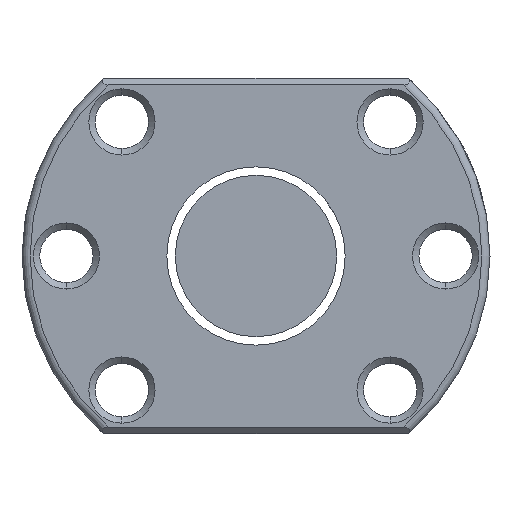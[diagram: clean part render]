
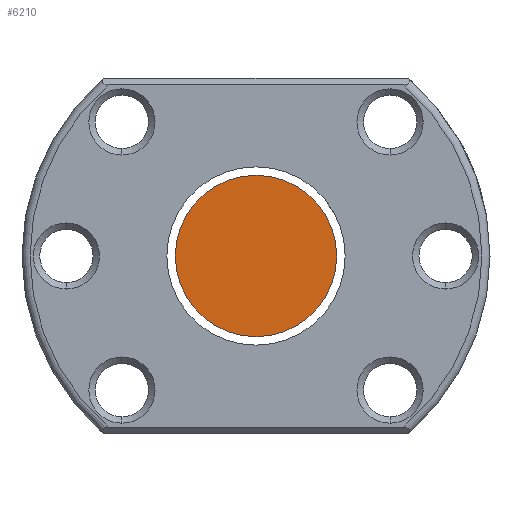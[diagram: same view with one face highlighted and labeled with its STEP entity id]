
A CAD part, left-side view. The second image highlights one B-rep face of the part: STEP entity #6210.
In plain terms, the highlighted planar face has unit normal (-1, 0, 0).
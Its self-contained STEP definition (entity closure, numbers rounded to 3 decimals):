
#136 = CARTESIAN_POINT ( 'NONE',  ( -270., 0., 0. ) ) ;
#426 = VERTEX_POINT ( 'NONE', #1868 ) ;
#1083 = ORIENTED_EDGE ( 'NONE', *, *, #2401, .F. ) ;
#1507 = ORIENTED_EDGE ( 'NONE', *, *, #4266, .F. ) ;
#1595 = VERTEX_POINT ( 'NONE', #6129 ) ;
#1868 = CARTESIAN_POINT ( 'NONE',  ( -270., 0., -10. ) ) ;
#1909 = DIRECTION ( 'NONE',  ( -1., 0., 0. ) ) ;
#2097 = DIRECTION ( 'NONE',  ( 0., 0., -1. ) ) ;
#2401 = EDGE_CURVE ( 'NONE', #1595, #426, #4144, .T. ) ;
#2508 = DIRECTION ( 'NONE',  ( 0., 0., -1. ) ) ;
#2553 = DIRECTION ( 'NONE',  ( 0., 0., 1. ) ) ;
#2592 = CARTESIAN_POINT ( 'NONE',  ( -270., 0., 0. ) ) ;
#2613 = PLANE ( 'NONE',  #6152 ) ;
#4144 = CIRCLE ( 'NONE', #5882, 10. ) ;
#4266 = EDGE_CURVE ( 'NONE', #426, #1595, #5369, .T. ) ;
#4369 = CARTESIAN_POINT ( 'NONE',  ( -270., 0., 0. ) ) ;
#5028 = DIRECTION ( 'NONE',  ( 1., 0., 0. ) ) ;
#5314 = FACE_OUTER_BOUND ( 'NONE', #5338, .T. ) ;
#5338 = EDGE_LOOP ( 'NONE', ( #1507, #1083 ) ) ;
#5369 = CIRCLE ( 'NONE', #6194, 10. ) ;
#5882 = AXIS2_PLACEMENT_3D ( 'NONE', #2592, #5028, #2097 ) ;
#5932 = DIRECTION ( 'NONE',  ( 1., 0., 0. ) ) ;
#6129 = CARTESIAN_POINT ( 'NONE',  ( -270., 0., 10. ) ) ;
#6152 = AXIS2_PLACEMENT_3D ( 'NONE', #136, #1909, #2553 ) ;
#6194 = AXIS2_PLACEMENT_3D ( 'NONE', #4369, #5932, #2508 ) ;
#6210 = ADVANCED_FACE ( 'NONE', ( #5314 ), #2613, .T. ) ;
